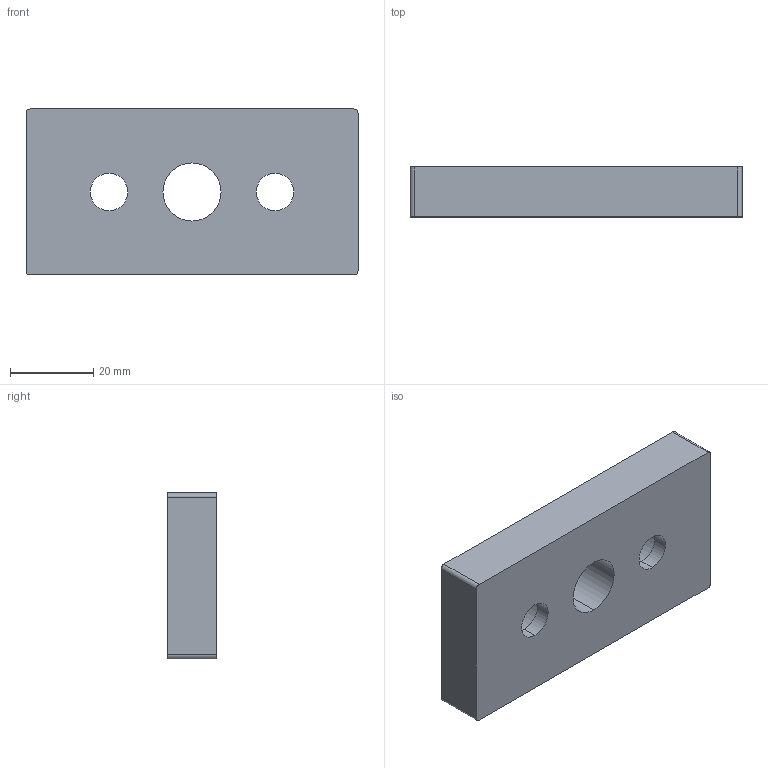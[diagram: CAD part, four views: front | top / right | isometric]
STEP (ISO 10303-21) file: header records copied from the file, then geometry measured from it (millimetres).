
FILE_DESCRIPTION (( 'STEP AP203' ), '1' );
FILE_NAME ('DFB4080(M12+M16).STEP', '2020-10-14T02:37:51', ( '' ), ( '' ), 'SwSTEP 2.0', 'SolidWorks 2017', '' );
FILE_SCHEMA (( 'CONFIG_CONTROL_DESIGN' ));
Length unit declared in the file: millimetre
Products named in the file (1): DFB4080(M12+M16)
Bounding box: 80 x 12 x 40 mm (x, y, z)
Volume: 33498.2 mm3; surface area: 10165.6 mm2
Topology: 1 solids, 1 shells, 22 faces, 54 edges, 36 vertices
Faces by surface type: cylinder 14, plane 8
Entity records: 755 total; most frequent: DIRECTION 128, CARTESIAN_POINT 113, ORIENTED_EDGE 108, EDGE_CURVE 54, AXIS2_PLACEMENT_3D 51, VERTEX_POINT 36, EDGE_LOOP 30, CIRCLE 28
